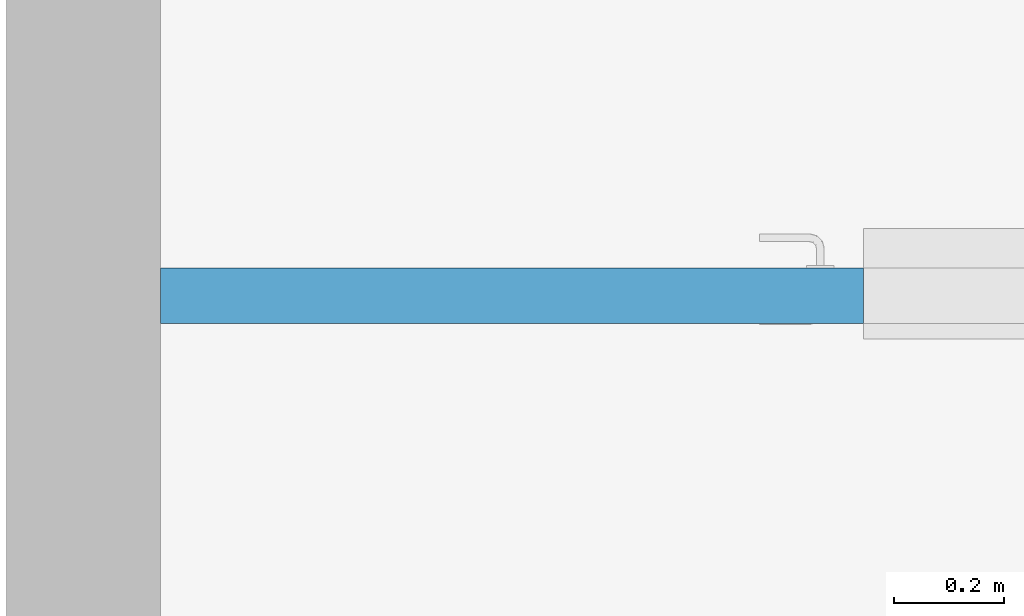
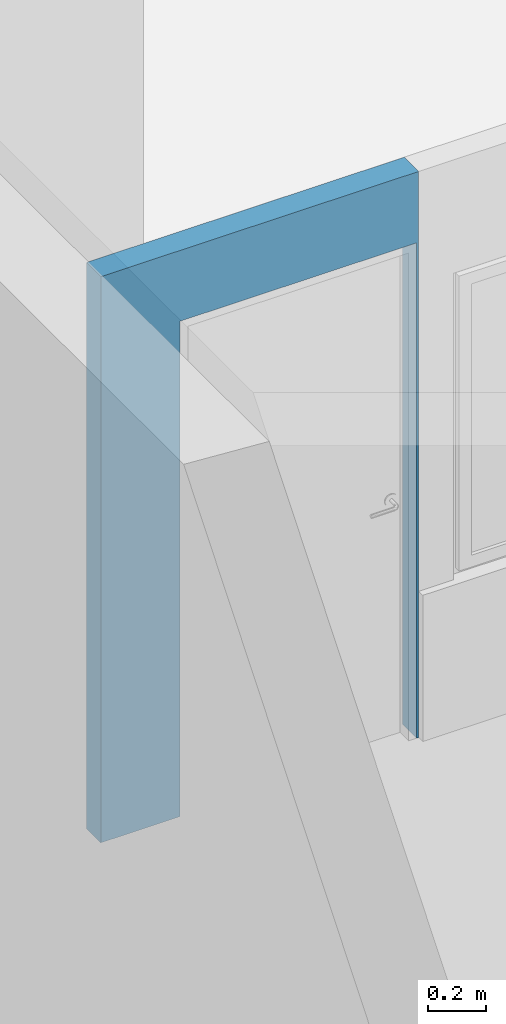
# One storey, part 169 of 301: 1 wall, 1 opening.
"""IFC2X3 building model written with IfcOpenShell, lengths in millimetres."""

from ifc_helpers import new_model, entity, si_unit, converted_unit, derived_unit, money_unit, direction, frame, origin_with_axes, place, context, subcontext, project, spatial, faceted_brep, material, type_object, element, save


model = new_model("IFC2X3")

# Units and contexts
model_context = context("Model", 3, precision=0.01, world=origin_with_axes(), true_north=direction((0.0, 1.0)))
body_context = subcontext(model_context, "Body", "Model", "MODEL_VIEW")
ifc_project = project(units=[si_unit("LENGTHUNIT", "METRE", prefix="MILLI"), si_unit("AREAUNIT", "SQUARE_METRE"), si_unit("VOLUMEUNIT", "CUBIC_METRE"), converted_unit("PLANEANGLEUNIT", "DEGREE", entity("IfcPlaneAngleMeasure", 0.0174532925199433), si_unit("PLANEANGLEUNIT", "RADIAN"), dimensions=[0, 0, 0, 0, 0, 0, 0]), money_unit("EUR"), converted_unit("TIMEUNIT", "Year", entity("IfcTimeMeasure", 31557600.0), si_unit("TIMEUNIT", "SECOND"), dimensions=[0, 0, 1, 0, 0, 0, 0]), si_unit("MASSUNIT", "GRAM", prefix="KILO"), si_unit("THERMODYNAMICTEMPERATUREUNIT", "DEGREE_CELSIUS"), si_unit("LUMINOUSINTENSITYUNIT", "LUMEN"), si_unit("ENERGYUNIT", "JOULE", prefix="MEGA"), derived_unit("THERMALCONDUCTANCEUNIT", [(si_unit("POWERUNIT", "WATT"), 1), (si_unit("LENGTHUNIT", "METRE"), -1), (si_unit("THERMODYNAMICTEMPERATUREUNIT", "KELVIN"), -1)]), derived_unit("SPECIFICHEATCAPACITYUNIT", [(si_unit("ENERGYUNIT", "JOULE"), 1), (si_unit("MASSUNIT", "GRAM", prefix="KILO"), -1), (si_unit("THERMODYNAMICTEMPERATUREUNIT", "KELVIN"), -1)]), derived_unit("MASSDENSITYUNIT", [(si_unit("MASSUNIT", "GRAM", prefix="KILO"), 1), (si_unit("VOLUMEUNIT", "CUBIC_METRE"), -1)])], contexts=[model_context])

# Site, building, storey
site_placement = place(None, frame((0.0, 0.0, 8650.0), z_axis=(0.0, 0.0, 1.0), x_axis=(1.0, 0.0, 0.0)))
site = spatial("IfcSite", under=ifc_project, at=site_placement, Name="43301:001:0844", CompositionType="ELEMENT")
building_placement = place(site_placement, origin_with_axes())
building = spatial("IfcBuilding", under=site, at=building_placement, Name="Kuressaare Ametikooli tuulikute mehaanikute õppekorpus", CompositionType="ELEMENT")
storey_placement = place(building_placement, origin_with_axes())
storey = spatial("IfcBuildingStorey", under=building, at=storey_placement, Name="1.korrus", CompositionType="ELEMENT", Elevation=0.0)

# Wall, opening
ifc_material = material(Name="GENEERILINE - KONSTRUKTRIOON")
wall_type = type_object("IfcWallType", Name="GENEERILINE - KONSTRUKTRIOON 100", PredefinedType="NOTDEFINED")
wall_placement = place(storey_placement, frame((88218.76723465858, 113513.337023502, 2360.0), z_axis=(0.0, 0.0, 1.0), x_axis=(1.0, 0.0, 0.0)))
wall = element("IfcWall", 1, at=wall_placement, inside=storey, type_object=wall_type, material=ifc_material, Name="SS-XX", context=body_context, shape_type="Brep", body=[
    faceted_brep([(316.4482165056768, 0.0, 2100.0), (316.4482165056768, 0.0, 0.0), (0.0, 0.0, 0.0), (0.0, 0.0, 2400.0), (1274.663586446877, 0.0, 2400.0), (1274.663586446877, 0.0, 0.0), (1266.448216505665, 0.0, 0.0), (1266.448216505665, 0.0, 2100.0), (316.4482165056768, -99.99999999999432, 2100.0), (316.4482165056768, -99.99999999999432, 0.0), (0.0, -99.99999999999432, 0.0), (0.0, -99.99999999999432, 2400.0), (1274.663586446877, -99.99999999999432, 2400.0), (1274.663586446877, -99.99999999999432, 0.0), (1266.448216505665, -99.99999999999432, 0.0), (1266.448216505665, -99.99999999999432, 2100.0)], [[[0, 1, 2, 3, 4, 5, 6, 7]], [[1, 0, 8, 9]], [[1, 9, 10, 2]], [[11, 3, 2, 10]], [[12, 4, 3, 11]], [[12, 13, 5, 4]], [[14, 6, 5, 13]], [[7, 6, 14, 15]], [[0, 7, 15, 8]], [[15, 14, 13, 12, 11, 10, 9, 8]]]),
])
opening_placement = place(wall_placement, frame((791.4482165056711, 0.0, 0.0), z_axis=(0.0, 0.0, 1.0), x_axis=(1.0, 0.0, 0.0)))
element("IfcOpeningElement", 2, at=opening_placement, cuts=wall, Name="SU-XX", context=body_context, shape_type="Brep", body=[
    faceted_brep([(-474.9999999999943, -100.9999999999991, 2100.0), (-474.9999999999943, -100.9999999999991, 0.0), (474.9999999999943, -100.9999999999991, 0.0), (474.9999999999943, -100.9999999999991, 2100.0), (-474.9999999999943, 1.000000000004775, 2100.0), (-474.9999999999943, 1.000000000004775, 0.0), (474.9999999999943, 1.000000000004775, 0.0), (474.9999999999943, 1.000000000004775, 2100.0)], [[[0, 1, 2, 3]], [[4, 5, 1, 0]], [[5, 6, 2, 1]], [[6, 7, 3, 2]], [[7, 4, 0, 3]], [[6, 5, 4, 7]]]),
])

save(model, "model.ifc")
